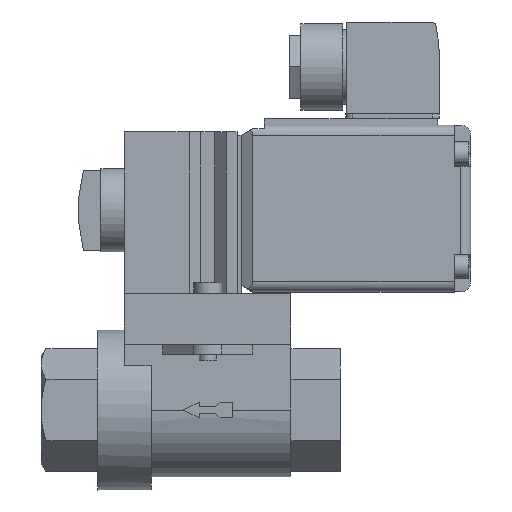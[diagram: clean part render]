
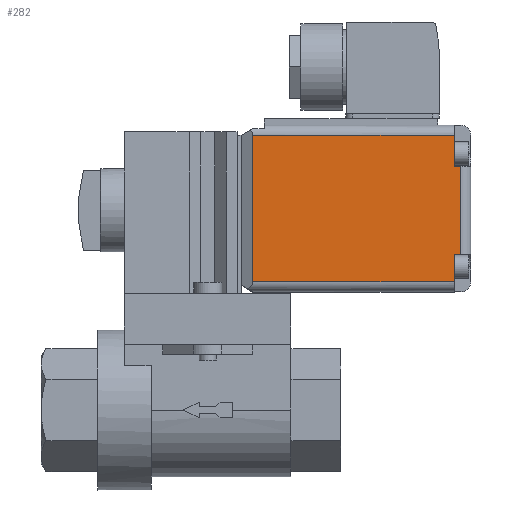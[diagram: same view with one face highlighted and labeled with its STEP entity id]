
A CAD part, top view. The second image highlights one B-rep face of the part: STEP entity #282.
In plain terms, the highlighted planar face has unit normal (0, 0, 1).
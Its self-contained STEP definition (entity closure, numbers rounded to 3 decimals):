
#282 = ADVANCED_FACE( '', ( #736 ), #737, .F. );
#736 = FACE_OUTER_BOUND( '', #1396, .T. );
#737 = PLANE( '', #1397 );
#1396 = EDGE_LOOP( '', ( #2190, #2191, #2192, #2193, #2194, #2195, #2196, #2197 ) );
#1397 = AXIS2_PLACEMENT_3D( '', #2198, #2199, #2200 );
#2190 = ORIENTED_EDGE( '', *, *, #3932, .F. );
#2191 = ORIENTED_EDGE( '', *, *, #3933, .T. );
#2192 = ORIENTED_EDGE( '', *, *, #3934, .F. );
#2193 = ORIENTED_EDGE( '', *, *, #3935, .T. );
#2194 = ORIENTED_EDGE( '', *, *, #3936, .T. );
#2195 = ORIENTED_EDGE( '', *, *, #3937, .F. );
#2196 = ORIENTED_EDGE( '', *, *, #3938, .F. );
#2197 = ORIENTED_EDGE( '', *, *, #3939, .T. );
#2198 = CARTESIAN_POINT( '', ( 79., 59.5, 24.5 ) );
#2199 = DIRECTION( '', ( 0., 0., -1. ) );
#2200 = DIRECTION( '', ( -1., 0., 0. ) );
#3932 = EDGE_CURVE( '', #4747, #4748, #4749, .T. );
#3933 = EDGE_CURVE( '', #4747, #4750, #4751, .T. );
#3934 = EDGE_CURVE( '', #4752, #4750, #4753, .T. );
#3935 = EDGE_CURVE( '', #4752, #4754, #4755, .T. );
#3936 = EDGE_CURVE( '', #4754, #4756, #4757, .T. );
#3937 = EDGE_CURVE( '', #4758, #4756, #4759, .T. );
#3938 = EDGE_CURVE( '', #4760, #4758, #4761, .T. );
#3939 = EDGE_CURVE( '', #4760, #4748, #4762, .T. );
#4747 = VERTEX_POINT( '', #5910 );
#4748 = VERTEX_POINT( '', #5911 );
#4749 = LINE( '', #5912, #5913 );
#4750 = VERTEX_POINT( '', #5914 );
#4751 = LINE( '', #5915, #5916 );
#4752 = VERTEX_POINT( '', #5917 );
#4753 = LINE( '', #5918, #5919 );
#4754 = VERTEX_POINT( '', #5920 );
#4755 = LINE( '', #5921, #5922 );
#4756 = VERTEX_POINT( '', #5923 );
#4757 = LINE( '', #5924, #5925 );
#4758 = VERTEX_POINT( '', #5926 );
#4759 = LINE( '', #5927, #5928 );
#4760 = VERTEX_POINT( '', #5929 );
#4761 = LINE( '', #5930, #5931 );
#4762 = LINE( '', #5932, #5933 );
#5910 = CARTESIAN_POINT( '', ( 76., 48.25, 24.5 ) );
#5911 = CARTESIAN_POINT( '', ( 76., 21.75, 24.5 ) );
#5912 = CARTESIAN_POINT( '', ( 76., 65., 24.5 ) );
#5913 = VECTOR( '', #7179, 1000. );
#5914 = CARTESIAN_POINT( '', ( 74., 48.25, 24.5 ) );
#5915 = CARTESIAN_POINT( '', ( 79., 48.25, 24.5 ) );
#5916 = VECTOR( '', #7180, 1000. );
#5917 = CARTESIAN_POINT( '', ( 74., 57.5, 24.5 ) );
#5918 = CARTESIAN_POINT( '', ( 74., 59.5, 24.5 ) );
#5919 = VECTOR( '', #7181, 1000. );
#5920 = CARTESIAN_POINT( '', ( 13.5, 57.5, 24.5 ) );
#5921 = CARTESIAN_POINT( '', ( 83.5, 57.5, 24.5 ) );
#5922 = VECTOR( '', #7182, 1000. );
#5923 = CARTESIAN_POINT( '', ( 13.5, 13.5, 24.5 ) );
#5924 = CARTESIAN_POINT( '', ( 13.5, 59.5, 24.5 ) );
#5925 = VECTOR( '', #7183, 1000. );
#5926 = CARTESIAN_POINT( '', ( 74., 13.5, 24.5 ) );
#5927 = CARTESIAN_POINT( '', ( 83.5, 13.5, 24.5 ) );
#5928 = VECTOR( '', #7184, 1000. );
#5929 = CARTESIAN_POINT( '', ( 74., 21.75, 24.5 ) );
#5930 = CARTESIAN_POINT( '', ( 74., 59.5, 24.5 ) );
#5931 = VECTOR( '', #7185, 1000. );
#5932 = CARTESIAN_POINT( '', ( 79., 21.75, 24.5 ) );
#5933 = VECTOR( '', #7186, 1000. );
#7179 = DIRECTION( '', ( 0., -1., 0. ) );
#7180 = DIRECTION( '', ( -1., 0., 0. ) );
#7181 = DIRECTION( '', ( 0., -1., 0. ) );
#7182 = DIRECTION( '', ( -1., 0., 0. ) );
#7183 = DIRECTION( '', ( 0., -1., 0. ) );
#7184 = DIRECTION( '', ( -1., 0., 0. ) );
#7185 = DIRECTION( '', ( 0., -1., 0. ) );
#7186 = DIRECTION( '', ( 1., 0., 0. ) );
